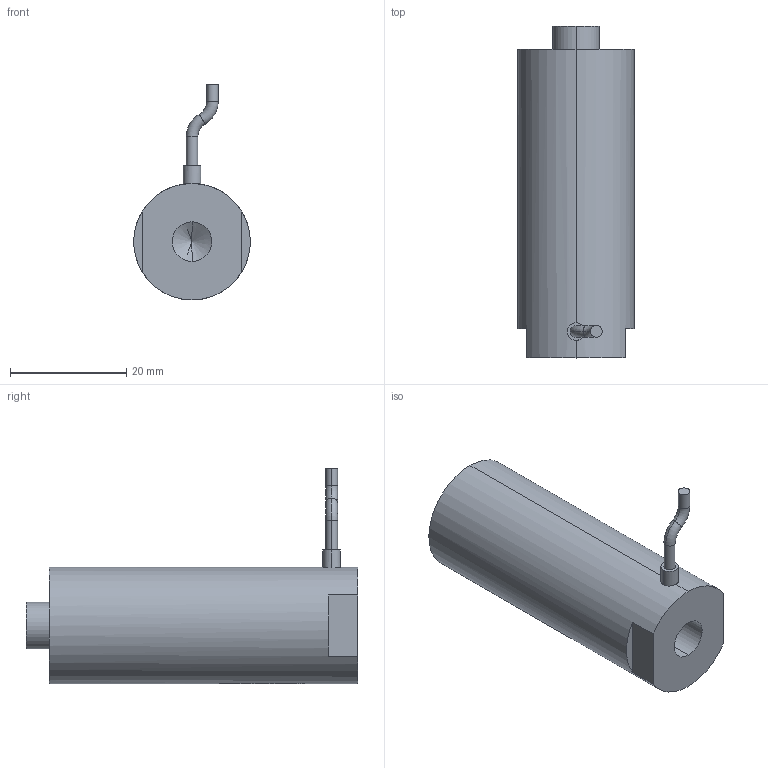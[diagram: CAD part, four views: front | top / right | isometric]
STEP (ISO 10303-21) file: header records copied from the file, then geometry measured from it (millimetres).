
FILE_DESCRIPTION (( 'STEP AP203' ), '1' );
FILE_NAME ('ﾆｽﾍｷﾊｽ40VS20.STEP', '2021-07-08T05:36:18', ( 'ﾎ｢ﾈ橆ﾃｻｧ' ), ( 'ﾎ｢ﾈ晥ｫﾋｾ' ), 'SwSTEP 2.0', 'SolidWorks 2016', '' );
FILE_SCHEMA (( 'CONFIG_CONTROL_DESIGN' ));
Products named in the file (1): ƽͷʽ40VS20
Bounding box: 20 x 57 x 37.06 mm (x, y, z)
Volume: 16398.7 mm3; surface area: 4418.2 mm2
Topology: 1 solids, 1 shells, 929 faces, 2515 edges, 1671 vertices
Faces by surface type: bspline 511, plane 308, cylinder 104, torus 4, cone 2
Entity records: 44321 total; most frequent: CARTESIAN_POINT 25488, ORIENTED_EDGE 5018, EDGE_CURVE 2509, DIRECTION 1920, B_SPLINE_CURVE_WITH_KNOTS 1691, VERTEX_POINT 1669, EDGE_LOOP 1016, FACE_OUTER_BOUND 929
